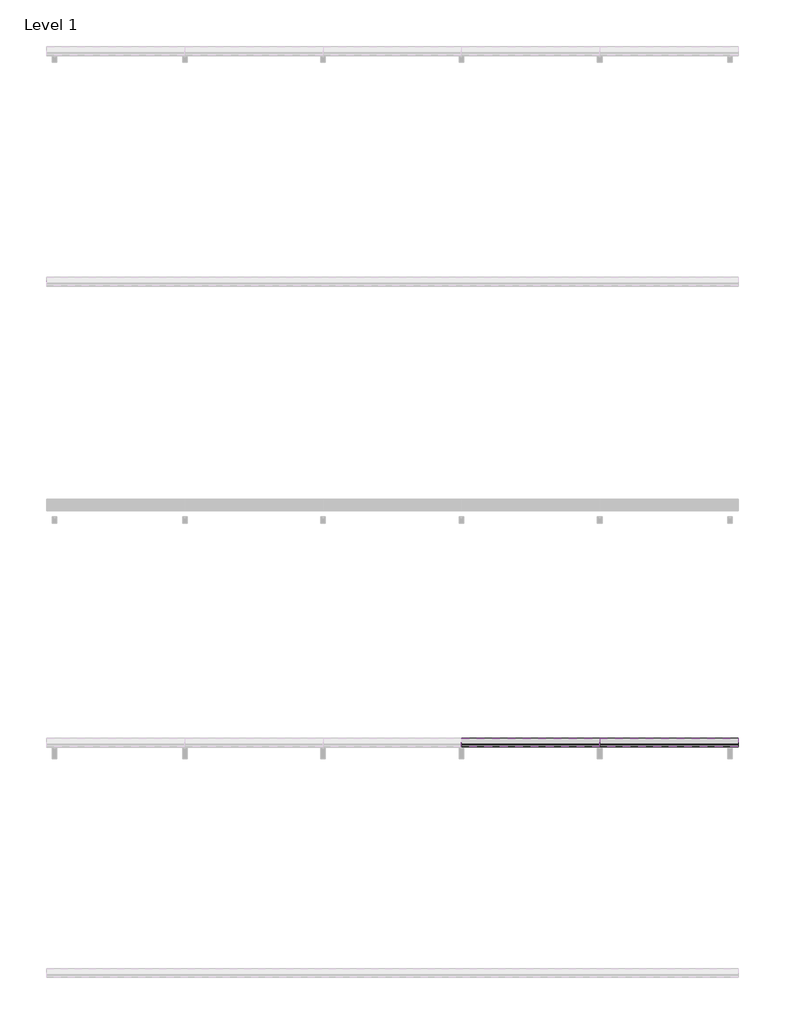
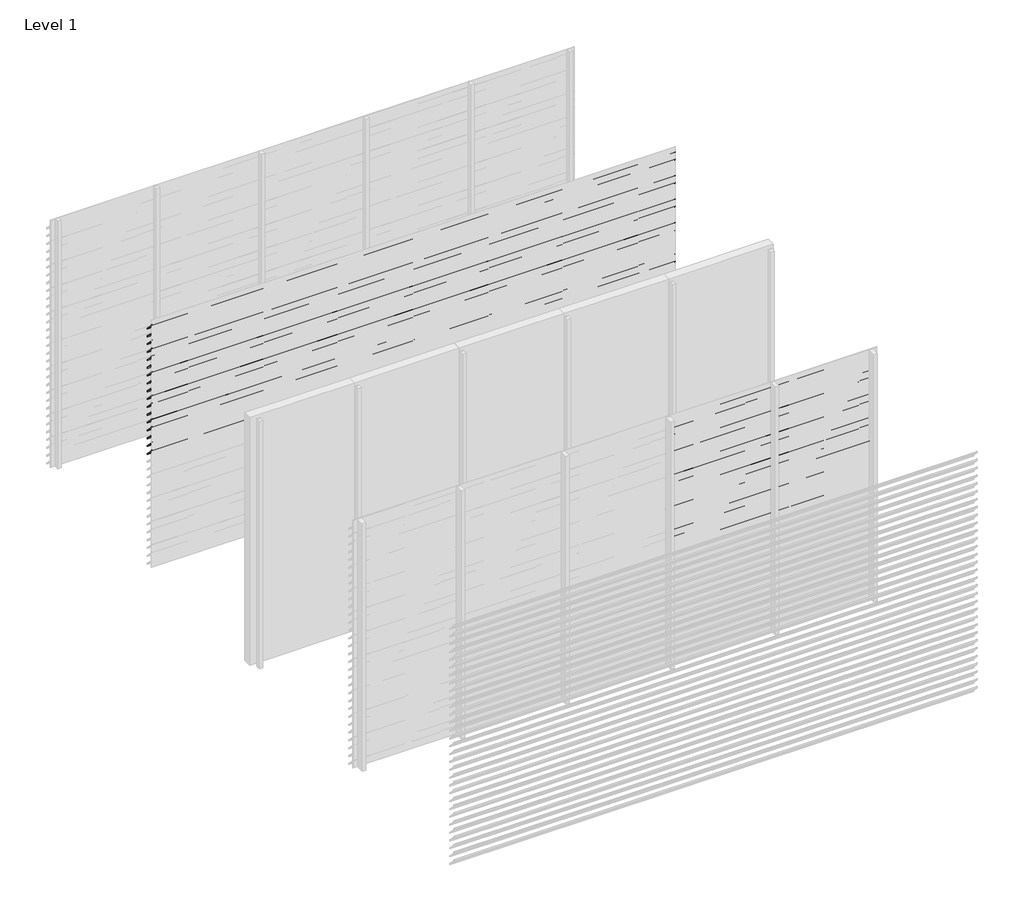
# One storey, part 11 of 24: 89 proxies.
"""IFC4 building model written with IfcOpenShell, lengths in millimetres."""

from ifc_helpers import new_model, si_unit, frame, origin, place, context, project, spatial, polyline, outline, extrude, element, save

model = new_model("IFC4")

# Units and contexts
model_context = context("Model", 3, world=origin())
ifc_project = project(units=[si_unit("LENGTHUNIT", "METRE", prefix="MILLI")], contexts=[model_context])

# Site, building, storey
site = spatial("IfcSite", under=ifc_project)
building = spatial("IfcBuilding", under=site)
storey = spatial("IfcBuildingStorey", under=building, Name="Level 1", Elevation=0.0)

# Proxies
placement = place(None, origin())
element("IfcBuildingElementProxy", 1, Name="Wall Sweeps", at=placement, inside=storey, context=model_context, shape_type="SweptSolid", body=[
    extrude(outline(polyline([(-31920.8, 2842.9), (-31922.3, 2842.9), (-31922.3, 2855.1762333), (-31998.0, 2930.4561238), (-31998.0, 2945.0), (-31996.5, 2945.0), (-31996.5, 2931.0798905), (-31920.8, 2855.8), (-31920.8, 2842.9)])), frame((0.0, 0.0, 0.0), z_axis=(1.0, 0.0, 0.0), x_axis=(0.0, 1.0, 0.0)), (0.0, 0.0, 1.0), 6000.0),
])
element("IfcBuildingElementProxy", 2, Name="Wall Sweeps", at=placement, inside=storey, context=model_context, shape_type="SweptSolid", body=[
    extrude(outline(polyline([(-31920.8, 2747.9), (-31922.3, 2747.9), (-31922.3, 2760.1762333), (-31998.0, 2835.4561238), (-31998.0, 2850.0), (-31996.5, 2850.0), (-31996.5, 2836.0798905), (-31920.8, 2760.8), (-31920.8, 2747.9)])), frame((0.0, 0.0, 0.0), z_axis=(1.0, 0.0, 0.0), x_axis=(0.0, 1.0, 0.0)), (0.0, 0.0, 1.0), 6000.0),
])
element("IfcBuildingElementProxy", 3, Name="Wall Sweeps", at=placement, inside=storey, context=model_context, shape_type="SweptSolid", body=[
    extrude(outline(polyline([(-31920.8, 2652.9), (-31922.3, 2652.9), (-31922.3, 2665.1762333), (-31998.0, 2740.4561238), (-31998.0, 2755.0), (-31996.5, 2755.0), (-31996.5, 2741.0798905), (-31920.8, 2665.8), (-31920.8, 2652.9)])), frame((0.0, 0.0, 0.0), z_axis=(1.0, 0.0, 0.0), x_axis=(0.0, 1.0, 0.0)), (0.0, 0.0, 1.0), 6000.0),
])
element("IfcBuildingElementProxy", 4, Name="Wall Sweeps", at=placement, inside=storey, context=model_context, shape_type="SweptSolid", body=[
    extrude(outline(polyline([(-31920.8, 2557.9), (-31922.3, 2557.9), (-31922.3, 2570.1762333), (-31998.0, 2645.4561238), (-31998.0, 2660.0), (-31996.5, 2660.0), (-31996.5, 2646.0798905), (-31920.8, 2570.8), (-31920.8, 2557.9)])), frame((0.0, 0.0, 0.0), z_axis=(1.0, 0.0, 0.0), x_axis=(0.0, 1.0, 0.0)), (0.0, 0.0, 1.0), 6000.0),
])
element("IfcBuildingElementProxy", 5, Name="Wall Sweeps", at=placement, inside=storey, context=model_context, shape_type="SweptSolid", body=[
    extrude(outline(polyline([(-31920.8, 2462.9), (-31922.3, 2462.9), (-31922.3, 2475.1762333), (-31998.0, 2550.4561238), (-31998.0, 2565.0), (-31996.5, 2565.0), (-31996.5, 2551.0798905), (-31920.8, 2475.8), (-31920.8, 2462.9)])), frame((0.0, 0.0, 0.0), z_axis=(1.0, 0.0, 0.0), x_axis=(0.0, 1.0, 0.0)), (0.0, 0.0, 1.0), 6000.0),
])
element("IfcBuildingElementProxy", 6, Name="Wall Sweeps", at=placement, inside=storey, context=model_context, shape_type="SweptSolid", body=[
    extrude(outline(polyline([(-31920.8, 2367.9), (-31922.3, 2367.9), (-31922.3, 2380.1762333), (-31998.0, 2455.4561238), (-31998.0, 2470.0), (-31996.5, 2470.0), (-31996.5, 2456.0798905), (-31920.8, 2380.8), (-31920.8, 2367.9)])), frame((0.0, 0.0, 0.0), z_axis=(1.0, 0.0, 0.0), x_axis=(0.0, 1.0, 0.0)), (0.0, 0.0, 1.0), 6000.0),
])
element("IfcBuildingElementProxy", 7, Name="Wall Sweeps", at=placement, inside=storey, context=model_context, shape_type="SweptSolid", body=[
    extrude(outline(polyline([(-31920.8, 2272.9), (-31922.3, 2272.9), (-31922.3, 2285.1762333), (-31998.0, 2360.4561238), (-31998.0, 2375.0), (-31996.5, 2375.0), (-31996.5, 2361.0798905), (-31920.8, 2285.8), (-31920.8, 2272.9)])), frame((0.0, 0.0, 0.0), z_axis=(1.0, 0.0, 0.0), x_axis=(0.0, 1.0, 0.0)), (0.0, 0.0, 1.0), 6000.0),
])
element("IfcBuildingElementProxy", 8, Name="Wall Sweeps", at=placement, inside=storey, context=model_context, shape_type="SweptSolid", body=[
    extrude(outline(polyline([(-31920.8, 2177.9), (-31922.3, 2177.9), (-31922.3, 2190.1762333), (-31998.0, 2265.4561238), (-31998.0, 2280.0), (-31996.5, 2280.0), (-31996.5, 2266.0798905), (-31920.8, 2190.8), (-31920.8, 2177.9)])), frame((0.0, 0.0, 0.0), z_axis=(1.0, 0.0, 0.0), x_axis=(0.0, 1.0, 0.0)), (0.0, 0.0, 1.0), 6000.0),
])
element("IfcBuildingElementProxy", 9, Name="Wall Sweeps", at=placement, inside=storey, context=model_context, shape_type="SweptSolid", body=[
    extrude(outline(polyline([(-31920.8, 2082.9), (-31922.3, 2082.9), (-31922.3, 2095.1762333), (-31998.0, 2170.4561238), (-31998.0, 2185.0), (-31996.5, 2185.0), (-31996.5, 2171.0798905), (-31920.8, 2095.8), (-31920.8, 2082.9)])), frame((0.0, 0.0, 0.0), z_axis=(1.0, 0.0, 0.0), x_axis=(0.0, 1.0, 0.0)), (0.0, 0.0, 1.0), 6000.0),
])
element("IfcBuildingElementProxy", 10, Name="Wall Sweeps", at=placement, inside=storey, context=model_context, shape_type="SweptSolid", body=[
    extrude(outline(polyline([(-31920.8, 1987.9), (-31922.3, 1987.9), (-31922.3, 2000.1762333), (-31998.0, 2075.4561238), (-31998.0, 2090.0), (-31996.5, 2090.0), (-31996.5, 2076.0798905), (-31920.8, 2000.8), (-31920.8, 1987.9)])), frame((0.0, 0.0, 0.0), z_axis=(1.0, 0.0, 0.0), x_axis=(0.0, 1.0, 0.0)), (0.0, 0.0, 1.0), 6000.0),
])
element("IfcBuildingElementProxy", 11, Name="Wall Sweeps", at=placement, inside=storey, context=model_context, shape_type="SweptSolid", body=[
    extrude(outline(polyline([(-31920.8, 1892.9), (-31922.3, 1892.9), (-31922.3, 1905.1762333), (-31998.0, 1980.4561238), (-31998.0, 1995.0), (-31996.5, 1995.0), (-31996.5, 1981.0798905), (-31920.8, 1905.8), (-31920.8, 1892.9)])), frame((0.0, 0.0, 0.0), z_axis=(1.0, 0.0, 0.0), x_axis=(0.0, 1.0, 0.0)), (0.0, 0.0, 1.0), 6000.0),
])
element("IfcBuildingElementProxy", 12, Name="Wall Sweeps", at=placement, inside=storey, context=model_context, shape_type="SweptSolid", body=[
    extrude(outline(polyline([(-31920.8, 1797.9), (-31922.3, 1797.9), (-31922.3, 1810.1762333), (-31998.0, 1885.4561238), (-31998.0, 1900.0), (-31996.5, 1900.0), (-31996.5, 1886.0798905), (-31920.8, 1810.8), (-31920.8, 1797.9)])), frame((0.0, 0.0, 0.0), z_axis=(1.0, 0.0, 0.0), x_axis=(0.0, 1.0, 0.0)), (0.0, 0.0, 1.0), 6000.0),
])
element("IfcBuildingElementProxy", 13, Name="Wall Sweeps", at=placement, inside=storey, context=model_context, shape_type="SweptSolid", body=[
    extrude(outline(polyline([(-31920.8, 1702.9), (-31922.3, 1702.9), (-31922.3, 1715.1762333), (-31998.0, 1790.4561238), (-31998.0, 1805.0), (-31996.5, 1805.0), (-31996.5, 1791.0798905), (-31920.8, 1715.8), (-31920.8, 1702.9)])), frame((0.0, 0.0, 0.0), z_axis=(1.0, 0.0, 0.0), x_axis=(0.0, 1.0, 0.0)), (0.0, 0.0, 1.0), 6000.0),
])
element("IfcBuildingElementProxy", 14, Name="Wall Sweeps", at=placement, inside=storey, context=model_context, shape_type="SweptSolid", body=[
    extrude(outline(polyline([(-31920.8, 1607.9), (-31922.3, 1607.9), (-31922.3, 1620.1762333), (-31998.0, 1695.4561238), (-31998.0, 1710.0), (-31996.5, 1710.0), (-31996.5, 1696.0798905), (-31920.8, 1620.8), (-31920.8, 1607.9)])), frame((0.0, 0.0, 0.0), z_axis=(1.0, 0.0, 0.0), x_axis=(0.0, 1.0, 0.0)), (0.0, 0.0, 1.0), 6000.0),
])
element("IfcBuildingElementProxy", 15, Name="Wall Sweeps", at=placement, inside=storey, context=model_context, shape_type="SweptSolid", body=[
    extrude(outline(polyline([(-31920.8, 1512.9), (-31922.3, 1512.9), (-31922.3, 1525.1762333), (-31998.0, 1600.4561238), (-31998.0, 1615.0), (-31996.5, 1615.0), (-31996.5, 1601.0798905), (-31920.8, 1525.8), (-31920.8, 1512.9)])), frame((0.0, 0.0, 0.0), z_axis=(1.0, 0.0, 0.0), x_axis=(0.0, 1.0, 0.0)), (0.0, 0.0, 1.0), 6000.0),
])
element("IfcBuildingElementProxy", 16, Name="Wall Sweeps", at=placement, inside=storey, context=model_context, shape_type="SweptSolid", body=[
    extrude(outline(polyline([(-31920.8, 1417.9), (-31922.3, 1417.9), (-31922.3, 1430.1762333), (-31998.0, 1505.4561238), (-31998.0, 1520.0), (-31996.5, 1520.0), (-31996.5, 1506.0798905), (-31920.8, 1430.8), (-31920.8, 1417.9)])), frame((0.0, 0.0, 0.0), z_axis=(1.0, 0.0, 0.0), x_axis=(0.0, 1.0, 0.0)), (0.0, 0.0, 1.0), 6000.0),
])
element("IfcBuildingElementProxy", 17, Name="Wall Sweeps", at=placement, inside=storey, context=model_context, shape_type="SweptSolid", body=[
    extrude(outline(polyline([(-31920.8, 1322.9), (-31922.3, 1322.9), (-31922.3, 1335.1762333), (-31998.0, 1410.4561238), (-31998.0, 1425.0), (-31996.5, 1425.0), (-31996.5, 1411.0798905), (-31920.8, 1335.8), (-31920.8, 1322.9)])), frame((0.0, 0.0, 0.0), z_axis=(1.0, 0.0, 0.0), x_axis=(0.0, 1.0, 0.0)), (0.0, 0.0, 1.0), 6000.0),
])
element("IfcBuildingElementProxy", 18, Name="Wall Sweeps", at=placement, inside=storey, context=model_context, shape_type="SweptSolid", body=[
    extrude(outline(polyline([(-35920.8, 847.9), (-35922.3, 847.9), (-35922.3, 860.1762333), (-35998.0, 935.4561238), (-35998.0, 950.0), (-35996.5, 950.0), (-35996.5, 936.0798905), (-35920.8, 860.8), (-35920.8, 847.9)])), frame((2400.0, 0.0, 0.0), z_axis=(1.0, 0.0, 0.0), x_axis=(0.0, 1.0, 0.0)), (0.0, 0.0, 1.0), 1200.0),
])
element("IfcBuildingElementProxy", 19, Name="Wall Sweeps", at=placement, inside=storey, context=model_context, shape_type="SweptSolid", body=[
    extrude(outline(polyline([(-35920.8, 752.9), (-35922.3, 752.9), (-35922.3, 765.1762333), (-35998.0, 840.4561238), (-35998.0, 855.0), (-35996.5, 855.0), (-35996.5, 841.0798905), (-35920.8, 765.8), (-35920.8, 752.9)])), frame((2400.0, 0.0, 0.0), z_axis=(1.0, 0.0, 0.0), x_axis=(0.0, 1.0, 0.0)), (0.0, 0.0, 1.0), 1200.0),
])
element("IfcBuildingElementProxy", 20, Name="Wall Sweeps", at=placement, inside=storey, context=model_context, shape_type="SweptSolid", body=[
    extrude(outline(polyline([(-35920.8, 657.9), (-35922.3, 657.9), (-35922.3, 670.1762333), (-35998.0, 745.4561238), (-35998.0, 760.0), (-35996.5, 760.0), (-35996.5, 746.0798905), (-35920.8, 670.8), (-35920.8, 657.9)])), frame((2400.0, 0.0, 0.0), z_axis=(1.0, 0.0, 0.0), x_axis=(0.0, 1.0, 0.0)), (0.0, 0.0, 1.0), 1200.0),
])
element("IfcBuildingElementProxy", 21, Name="Wall Sweeps", at=placement, inside=storey, context=model_context, shape_type="SweptSolid", body=[
    extrude(outline(polyline([(-35920.8, 562.9), (-35922.3, 562.9), (-35922.3, 575.1762333), (-35998.0, 650.4561238), (-35998.0, 665.0), (-35996.5, 665.0), (-35996.5, 651.0798905), (-35920.8, 575.8), (-35920.8, 562.9)])), frame((2400.0, 0.0, 0.0), z_axis=(1.0, 0.0, 0.0), x_axis=(0.0, 1.0, 0.0)), (0.0, 0.0, 1.0), 1200.0),
])
element("IfcBuildingElementProxy", 22, Name="Wall Sweeps", at=placement, inside=storey, context=model_context, shape_type="SweptSolid", body=[
    extrude(outline(polyline([(-35920.8, 467.9), (-35922.3, 467.9), (-35922.3, 480.1762333), (-35998.0, 555.4561238), (-35998.0, 570.0), (-35996.5, 570.0), (-35996.5, 556.0798905), (-35920.8, 480.8), (-35920.8, 467.9)])), frame((2400.0, 0.0, 0.0), z_axis=(1.0, 0.0, 0.0), x_axis=(0.0, 1.0, 0.0)), (0.0, 0.0, 1.0), 1200.0),
])
element("IfcBuildingElementProxy", 23, Name="Wall Sweeps", at=placement, inside=storey, context=model_context, shape_type="SweptSolid", body=[
    extrude(outline(polyline([(-35920.8, 372.9), (-35922.3, 372.9), (-35922.3, 385.1762333), (-35998.0, 460.4561238), (-35998.0, 475.0), (-35996.5, 475.0), (-35996.5, 461.0798905), (-35920.8, 385.8), (-35920.8, 372.9)])), frame((2400.0, 0.0, 0.0), z_axis=(1.0, 0.0, 0.0), x_axis=(0.0, 1.0, 0.0)), (0.0, 0.0, 1.0), 1200.0),
])
element("IfcBuildingElementProxy", 24, Name="Wall Sweeps", at=placement, inside=storey, context=model_context, shape_type="SweptSolid", body=[
    extrude(outline(polyline([(-35920.8, 277.9), (-35922.3, 277.9), (-35922.3, 290.1762333), (-35998.0, 365.4561238), (-35998.0, 380.0), (-35996.5, 380.0), (-35996.5, 366.0798905), (-35920.8, 290.8), (-35920.8, 277.9)])), frame((2400.0, 0.0, 0.0), z_axis=(1.0, 0.0, 0.0), x_axis=(0.0, 1.0, 0.0)), (0.0, 0.0, 1.0), 1200.0),
])
element("IfcBuildingElementProxy", 25, Name="Wall Sweeps", at=placement, inside=storey, context=model_context, shape_type="SweptSolid", body=[
    extrude(outline(polyline([(-35920.8, 182.9), (-35922.3, 182.9), (-35922.3, 195.1762333), (-35998.0, 270.4561238), (-35998.0, 285.0), (-35996.5, 285.0), (-35996.5, 271.0798905), (-35920.8, 195.8), (-35920.8, 182.9)])), frame((2400.0, 0.0, 0.0), z_axis=(1.0, 0.0, 0.0), x_axis=(0.0, 1.0, 0.0)), (0.0, 0.0, 1.0), 1200.0),
])
element("IfcBuildingElementProxy", 26, Name="Wall Sweeps", at=placement, inside=storey, context=model_context, shape_type="SweptSolid", body=[
    extrude(outline(polyline([(-35920.8, 87.9), (-35922.3, 87.9), (-35922.3, 100.1762333), (-35998.0, 175.4561238), (-35998.0, 190.0), (-35996.5, 190.0), (-35996.5, 176.0798905), (-35920.8, 100.8), (-35920.8, 87.9)])), frame((2400.0, 0.0, 0.0), z_axis=(1.0, 0.0, 0.0), x_axis=(0.0, 1.0, 0.0)), (0.0, 0.0, 1.0), 1200.0),
])
element("IfcBuildingElementProxy", 27, Name="Wall Sweeps", at=placement, inside=storey, context=model_context, shape_type="SweptSolid", body=[
    extrude(outline(polyline([(-35920.8, -7.1), (-35922.3, -7.1), (-35922.3, 5.1762333), (-35998.0, 80.4561238), (-35998.0, 95.0), (-35996.5, 95.0), (-35996.5, 81.0798905), (-35920.8, 5.8), (-35920.8, -7.1)])), frame((2400.0, 0.0, 0.0), z_axis=(1.0, 0.0, 0.0), x_axis=(0.0, 1.0, 0.0)), (0.0, 0.0, 1.0), 1200.0),
])
element("IfcBuildingElementProxy", 28, Name="Wall Sweeps", at=placement, inside=storey, context=model_context, shape_type="SweptSolid", body=[
    extrude(outline(polyline([(-35920.8, 2842.9), (-35922.3, 2842.9), (-35922.3, 2855.1762333), (-35998.0, 2930.4561238), (-35998.0, 2945.0), (-35996.5, 2945.0), (-35996.5, 2931.0798905), (-35920.8, 2855.8), (-35920.8, 2842.9)])), frame((3600.0, 0.0, 0.0), z_axis=(1.0, 0.0, 0.0), x_axis=(0.0, 1.0, 0.0)), (0.0, 0.0, 1.0), 1200.0),
])
element("IfcBuildingElementProxy", 29, Name="Wall Sweeps", at=placement, inside=storey, context=model_context, shape_type="SweptSolid", body=[
    extrude(outline(polyline([(-35920.8, 2747.9), (-35922.3, 2747.9), (-35922.3, 2760.1762333), (-35998.0, 2835.4561238), (-35998.0, 2850.0), (-35996.5, 2850.0), (-35996.5, 2836.0798905), (-35920.8, 2760.8), (-35920.8, 2747.9)])), frame((3600.0, 0.0, 0.0), z_axis=(1.0, 0.0, 0.0), x_axis=(0.0, 1.0, 0.0)), (0.0, 0.0, 1.0), 1200.0),
])
element("IfcBuildingElementProxy", 30, Name="Wall Sweeps", at=placement, inside=storey, context=model_context, shape_type="SweptSolid", body=[
    extrude(outline(polyline([(-35920.8, 2652.9), (-35922.3, 2652.9), (-35922.3, 2665.1762333), (-35998.0, 2740.4561238), (-35998.0, 2755.0), (-35996.5, 2755.0), (-35996.5, 2741.0798905), (-35920.8, 2665.8), (-35920.8, 2652.9)])), frame((3600.0, 0.0, 0.0), z_axis=(1.0, 0.0, 0.0), x_axis=(0.0, 1.0, 0.0)), (0.0, 0.0, 1.0), 1200.0),
])
element("IfcBuildingElementProxy", 31, Name="Wall Sweeps", at=placement, inside=storey, context=model_context, shape_type="SweptSolid", body=[
    extrude(outline(polyline([(-35920.8, 2557.9), (-35922.3, 2557.9), (-35922.3, 2570.1762333), (-35998.0, 2645.4561238), (-35998.0, 2660.0), (-35996.5, 2660.0), (-35996.5, 2646.0798905), (-35920.8, 2570.8), (-35920.8, 2557.9)])), frame((3600.0, 0.0, 0.0), z_axis=(1.0, 0.0, 0.0), x_axis=(0.0, 1.0, 0.0)), (0.0, 0.0, 1.0), 1200.0),
])
element("IfcBuildingElementProxy", 32, Name="Wall Sweeps", at=placement, inside=storey, context=model_context, shape_type="SweptSolid", body=[
    extrude(outline(polyline([(-35920.8, 2462.9), (-35922.3, 2462.9), (-35922.3, 2475.1762333), (-35998.0, 2550.4561238), (-35998.0, 2565.0), (-35996.5, 2565.0), (-35996.5, 2551.0798905), (-35920.8, 2475.8), (-35920.8, 2462.9)])), frame((3600.0, 0.0, 0.0), z_axis=(1.0, 0.0, 0.0), x_axis=(0.0, 1.0, 0.0)), (0.0, 0.0, 1.0), 1200.0),
])
element("IfcBuildingElementProxy", 33, Name="Wall Sweeps", at=placement, inside=storey, context=model_context, shape_type="SweptSolid", body=[
    extrude(outline(polyline([(-35920.8, 2367.9), (-35922.3, 2367.9), (-35922.3, 2380.1762333), (-35998.0, 2455.4561238), (-35998.0, 2470.0), (-35996.5, 2470.0), (-35996.5, 2456.0798905), (-35920.8, 2380.8), (-35920.8, 2367.9)])), frame((3600.0, 0.0, 0.0), z_axis=(1.0, 0.0, 0.0), x_axis=(0.0, 1.0, 0.0)), (0.0, 0.0, 1.0), 1200.0),
])
element("IfcBuildingElementProxy", 34, Name="Wall Sweeps", at=placement, inside=storey, context=model_context, shape_type="SweptSolid", body=[
    extrude(outline(polyline([(-35920.8, 2272.9), (-35922.3, 2272.9), (-35922.3, 2285.1762333), (-35998.0, 2360.4561238), (-35998.0, 2375.0), (-35996.5, 2375.0), (-35996.5, 2361.0798905), (-35920.8, 2285.8), (-35920.8, 2272.9)])), frame((3600.0, 0.0, 0.0), z_axis=(1.0, 0.0, 0.0), x_axis=(0.0, 1.0, 0.0)), (0.0, 0.0, 1.0), 1200.0),
])
element("IfcBuildingElementProxy", 35, Name="Wall Sweeps", at=placement, inside=storey, context=model_context, shape_type="SweptSolid", body=[
    extrude(outline(polyline([(-35920.8, 2177.9), (-35922.3, 2177.9), (-35922.3, 2190.1762333), (-35998.0, 2265.4561238), (-35998.0, 2280.0), (-35996.5, 2280.0), (-35996.5, 2266.0798905), (-35920.8, 2190.8), (-35920.8, 2177.9)])), frame((3600.0, 0.0, 0.0), z_axis=(1.0, 0.0, 0.0), x_axis=(0.0, 1.0, 0.0)), (0.0, 0.0, 1.0), 1200.0),
])
element("IfcBuildingElementProxy", 36, Name="Wall Sweeps", at=placement, inside=storey, context=model_context, shape_type="SweptSolid", body=[
    extrude(outline(polyline([(-35920.8, 2082.9), (-35922.3, 2082.9), (-35922.3, 2095.1762333), (-35998.0, 2170.4561238), (-35998.0, 2185.0), (-35996.5, 2185.0), (-35996.5, 2171.0798905), (-35920.8, 2095.8), (-35920.8, 2082.9)])), frame((3600.0, 0.0, 0.0), z_axis=(1.0, 0.0, 0.0), x_axis=(0.0, 1.0, 0.0)), (0.0, 0.0, 1.0), 1200.0),
])
element("IfcBuildingElementProxy", 37, Name="Wall Sweeps", at=placement, inside=storey, context=model_context, shape_type="SweptSolid", body=[
    extrude(outline(polyline([(-35920.8, 1987.9), (-35922.3, 1987.9), (-35922.3, 2000.1762333), (-35998.0, 2075.4561238), (-35998.0, 2090.0), (-35996.5, 2090.0), (-35996.5, 2076.0798905), (-35920.8, 2000.8), (-35920.8, 1987.9)])), frame((3600.0, 0.0, 0.0), z_axis=(1.0, 0.0, 0.0), x_axis=(0.0, 1.0, 0.0)), (0.0, 0.0, 1.0), 1200.0),
])
element("IfcBuildingElementProxy", 38, Name="Wall Sweeps", at=placement, inside=storey, context=model_context, shape_type="SweptSolid", body=[
    extrude(outline(polyline([(-35920.8, 1892.9), (-35922.3, 1892.9), (-35922.3, 1905.1762333), (-35998.0, 1980.4561238), (-35998.0, 1995.0), (-35996.5, 1995.0), (-35996.5, 1981.0798905), (-35920.8, 1905.8), (-35920.8, 1892.9)])), frame((3600.0, 0.0, 0.0), z_axis=(1.0, 0.0, 0.0), x_axis=(0.0, 1.0, 0.0)), (0.0, 0.0, 1.0), 1200.0),
])
element("IfcBuildingElementProxy", 39, Name="Wall Sweeps", at=placement, inside=storey, context=model_context, shape_type="SweptSolid", body=[
    extrude(outline(polyline([(-35920.8, 1797.9), (-35922.3, 1797.9), (-35922.3, 1810.1762333), (-35998.0, 1885.4561238), (-35998.0, 1900.0), (-35996.5, 1900.0), (-35996.5, 1886.0798905), (-35920.8, 1810.8), (-35920.8, 1797.9)])), frame((3600.0, 0.0, 0.0), z_axis=(1.0, 0.0, 0.0), x_axis=(0.0, 1.0, 0.0)), (0.0, 0.0, 1.0), 1200.0),
])
element("IfcBuildingElementProxy", 40, Name="Wall Sweeps", at=placement, inside=storey, context=model_context, shape_type="SweptSolid", body=[
    extrude(outline(polyline([(-35920.8, 1702.9), (-35922.3, 1702.9), (-35922.3, 1715.1762333), (-35998.0, 1790.4561238), (-35998.0, 1805.0), (-35996.5, 1805.0), (-35996.5, 1791.0798905), (-35920.8, 1715.8), (-35920.8, 1702.9)])), frame((3600.0, 0.0, 0.0), z_axis=(1.0, 0.0, 0.0), x_axis=(0.0, 1.0, 0.0)), (0.0, 0.0, 1.0), 1200.0),
])
element("IfcBuildingElementProxy", 41, Name="Wall Sweeps", at=placement, inside=storey, context=model_context, shape_type="SweptSolid", body=[
    extrude(outline(polyline([(-35920.8, 1607.9), (-35922.3, 1607.9), (-35922.3, 1620.1762333), (-35998.0, 1695.4561238), (-35998.0, 1710.0), (-35996.5, 1710.0), (-35996.5, 1696.0798905), (-35920.8, 1620.8), (-35920.8, 1607.9)])), frame((3600.0, 0.0, 0.0), z_axis=(1.0, 0.0, 0.0), x_axis=(0.0, 1.0, 0.0)), (0.0, 0.0, 1.0), 1200.0),
])
element("IfcBuildingElementProxy", 42, Name="Wall Sweeps", at=placement, inside=storey, context=model_context, shape_type="SweptSolid", body=[
    extrude(outline(polyline([(-35920.8, 1512.9), (-35922.3, 1512.9), (-35922.3, 1525.1762333), (-35998.0, 1600.4561238), (-35998.0, 1615.0), (-35996.5, 1615.0), (-35996.5, 1601.0798905), (-35920.8, 1525.8), (-35920.8, 1512.9)])), frame((3600.0, 0.0, 0.0), z_axis=(1.0, 0.0, 0.0), x_axis=(0.0, 1.0, 0.0)), (0.0, 0.0, 1.0), 1200.0),
])
element("IfcBuildingElementProxy", 43, Name="Wall Sweeps", at=placement, inside=storey, context=model_context, shape_type="SweptSolid", body=[
    extrude(outline(polyline([(-35920.8, 1417.9), (-35922.3, 1417.9), (-35922.3, 1430.1762333), (-35998.0, 1505.4561238), (-35998.0, 1520.0), (-35996.5, 1520.0), (-35996.5, 1506.0798905), (-35920.8, 1430.8), (-35920.8, 1417.9)])), frame((3600.0, 0.0, 0.0), z_axis=(1.0, 0.0, 0.0), x_axis=(0.0, 1.0, 0.0)), (0.0, 0.0, 1.0), 1200.0),
])
element("IfcBuildingElementProxy", 44, Name="Wall Sweeps", at=placement, inside=storey, context=model_context, shape_type="SweptSolid", body=[
    extrude(outline(polyline([(-35920.8, 1322.9), (-35922.3, 1322.9), (-35922.3, 1335.1762333), (-35998.0, 1410.4561238), (-35998.0, 1425.0), (-35996.5, 1425.0), (-35996.5, 1411.0798905), (-35920.8, 1335.8), (-35920.8, 1322.9)])), frame((3600.0, 0.0, 0.0), z_axis=(1.0, 0.0, 0.0), x_axis=(0.0, 1.0, 0.0)), (0.0, 0.0, 1.0), 1200.0),
])
element("IfcBuildingElementProxy", 45, Name="Wall Sweeps", at=placement, inside=storey, context=model_context, shape_type="SweptSolid", body=[
    extrude(outline(polyline([(-35920.8, 1227.9), (-35922.3, 1227.9), (-35922.3, 1240.1762333), (-35998.0, 1315.4561238), (-35998.0, 1330.0), (-35996.5, 1330.0), (-35996.5, 1316.0798905), (-35920.8, 1240.8), (-35920.8, 1227.9)])), frame((3600.0, 0.0, 0.0), z_axis=(1.0, 0.0, 0.0), x_axis=(0.0, 1.0, 0.0)), (0.0, 0.0, 1.0), 1200.0),
])
element("IfcBuildingElementProxy", 46, Name="Wall Sweeps", at=placement, inside=storey, context=model_context, shape_type="SweptSolid", body=[
    extrude(outline(polyline([(-35920.8, 1132.9), (-35922.3, 1132.9), (-35922.3, 1145.1762333), (-35998.0, 1220.4561238), (-35998.0, 1235.0), (-35996.5, 1235.0), (-35996.5, 1221.0798905), (-35920.8, 1145.8), (-35920.8, 1132.9)])), frame((3600.0, 0.0, 0.0), z_axis=(1.0, 0.0, 0.0), x_axis=(0.0, 1.0, 0.0)), (0.0, 0.0, 1.0), 1200.0),
])
element("IfcBuildingElementProxy", 47, Name="Wall Sweeps", at=placement, inside=storey, context=model_context, shape_type="SweptSolid", body=[
    extrude(outline(polyline([(-35920.8, 1037.9), (-35922.3, 1037.9), (-35922.3, 1050.1762333), (-35998.0, 1125.4561238), (-35998.0, 1140.0), (-35996.5, 1140.0), (-35996.5, 1126.0798905), (-35920.8, 1050.8), (-35920.8, 1037.9)])), frame((3600.0, 0.0, 0.0), z_axis=(1.0, 0.0, 0.0), x_axis=(0.0, 1.0, 0.0)), (0.0, 0.0, 1.0), 1200.0),
])
element("IfcBuildingElementProxy", 48, Name="Wall Sweeps", at=placement, inside=storey, context=model_context, shape_type="SweptSolid", body=[
    extrude(outline(polyline([(-35920.8, 942.9), (-35922.3, 942.9), (-35922.3, 955.1762333), (-35998.0, 1030.4561238), (-35998.0, 1045.0), (-35996.5, 1045.0), (-35996.5, 1031.0798905), (-35920.8, 955.8), (-35920.8, 942.9)])), frame((3600.0, 0.0, 0.0), z_axis=(1.0, 0.0, 0.0), x_axis=(0.0, 1.0, 0.0)), (0.0, 0.0, 1.0), 1200.0),
])
element("IfcBuildingElementProxy", 49, Name="Wall Sweeps", at=placement, inside=storey, context=model_context, shape_type="SweptSolid", body=[
    extrude(outline(polyline([(-35920.8, 847.9), (-35922.3, 847.9), (-35922.3, 860.1762333), (-35998.0, 935.4561238), (-35998.0, 950.0), (-35996.5, 950.0), (-35996.5, 936.0798905), (-35920.8, 860.8), (-35920.8, 847.9)])), frame((3600.0, 0.0, 0.0), z_axis=(1.0, 0.0, 0.0), x_axis=(0.0, 1.0, 0.0)), (0.0, 0.0, 1.0), 1200.0),
])
element("IfcBuildingElementProxy", 50, Name="Wall Sweeps", at=placement, inside=storey, context=model_context, shape_type="SweptSolid", body=[
    extrude(outline(polyline([(-35920.8, 752.9), (-35922.3, 752.9), (-35922.3, 765.1762333), (-35998.0, 840.4561238), (-35998.0, 855.0), (-35996.5, 855.0), (-35996.5, 841.0798905), (-35920.8, 765.8), (-35920.8, 752.9)])), frame((3600.0, 0.0, 0.0), z_axis=(1.0, 0.0, 0.0), x_axis=(0.0, 1.0, 0.0)), (0.0, 0.0, 1.0), 1200.0),
])
element("IfcBuildingElementProxy", 51, Name="Wall Sweeps", at=placement, inside=storey, context=model_context, shape_type="SweptSolid", body=[
    extrude(outline(polyline([(-35920.8, 657.9), (-35922.3, 657.9), (-35922.3, 670.1762333), (-35998.0, 745.4561238), (-35998.0, 760.0), (-35996.5, 760.0), (-35996.5, 746.0798905), (-35920.8, 670.8), (-35920.8, 657.9)])), frame((3600.0, 0.0, 0.0), z_axis=(1.0, 0.0, 0.0), x_axis=(0.0, 1.0, 0.0)), (0.0, 0.0, 1.0), 1200.0),
])
element("IfcBuildingElementProxy", 52, Name="Wall Sweeps", at=placement, inside=storey, context=model_context, shape_type="SweptSolid", body=[
    extrude(outline(polyline([(-35920.8, 562.9), (-35922.3, 562.9), (-35922.3, 575.1762333), (-35998.0, 650.4561238), (-35998.0, 665.0), (-35996.5, 665.0), (-35996.5, 651.0798905), (-35920.8, 575.8), (-35920.8, 562.9)])), frame((3600.0, 0.0, 0.0), z_axis=(1.0, 0.0, 0.0), x_axis=(0.0, 1.0, 0.0)), (0.0, 0.0, 1.0), 1200.0),
])
element("IfcBuildingElementProxy", 53, Name="Wall Sweeps", at=placement, inside=storey, context=model_context, shape_type="SweptSolid", body=[
    extrude(outline(polyline([(-35920.8, 467.9), (-35922.3, 467.9), (-35922.3, 480.1762333), (-35998.0, 555.4561238), (-35998.0, 570.0), (-35996.5, 570.0), (-35996.5, 556.0798905), (-35920.8, 480.8), (-35920.8, 467.9)])), frame((3600.0, 0.0, 0.0), z_axis=(1.0, 0.0, 0.0), x_axis=(0.0, 1.0, 0.0)), (0.0, 0.0, 1.0), 1200.0),
])
element("IfcBuildingElementProxy", 54, Name="Wall Sweeps", at=placement, inside=storey, context=model_context, shape_type="SweptSolid", body=[
    extrude(outline(polyline([(-35920.8, 372.9), (-35922.3, 372.9), (-35922.3, 385.1762333), (-35998.0, 460.4561238), (-35998.0, 475.0), (-35996.5, 475.0), (-35996.5, 461.0798905), (-35920.8, 385.8), (-35920.8, 372.9)])), frame((3600.0, 0.0, 0.0), z_axis=(1.0, 0.0, 0.0), x_axis=(0.0, 1.0, 0.0)), (0.0, 0.0, 1.0), 1200.0),
])
element("IfcBuildingElementProxy", 55, Name="Wall Sweeps", at=placement, inside=storey, context=model_context, shape_type="SweptSolid", body=[
    extrude(outline(polyline([(-35920.8, 277.9), (-35922.3, 277.9), (-35922.3, 290.1762333), (-35998.0, 365.4561238), (-35998.0, 380.0), (-35996.5, 380.0), (-35996.5, 366.0798905), (-35920.8, 290.8), (-35920.8, 277.9)])), frame((3600.0, 0.0, 0.0), z_axis=(1.0, 0.0, 0.0), x_axis=(0.0, 1.0, 0.0)), (0.0, 0.0, 1.0), 1200.0),
])
element("IfcBuildingElementProxy", 56, Name="Wall Sweeps", at=placement, inside=storey, context=model_context, shape_type="SweptSolid", body=[
    extrude(outline(polyline([(-35920.8, 182.9), (-35922.3, 182.9), (-35922.3, 195.1762333), (-35998.0, 270.4561238), (-35998.0, 285.0), (-35996.5, 285.0), (-35996.5, 271.0798905), (-35920.8, 195.8), (-35920.8, 182.9)])), frame((3600.0, 0.0, 0.0), z_axis=(1.0, 0.0, 0.0), x_axis=(0.0, 1.0, 0.0)), (0.0, 0.0, 1.0), 1200.0),
])
element("IfcBuildingElementProxy", 57, Name="Wall Sweeps", at=placement, inside=storey, context=model_context, shape_type="SweptSolid", body=[
    extrude(outline(polyline([(-35920.8, 87.9), (-35922.3, 87.9), (-35922.3, 100.1762333), (-35998.0, 175.4561238), (-35998.0, 190.0), (-35996.5, 190.0), (-35996.5, 176.0798905), (-35920.8, 100.8), (-35920.8, 87.9)])), frame((3600.0, 0.0, 0.0), z_axis=(1.0, 0.0, 0.0), x_axis=(0.0, 1.0, 0.0)), (0.0, 0.0, 1.0), 1200.0),
])
element("IfcBuildingElementProxy", 58, Name="Wall Sweeps", at=placement, inside=storey, context=model_context, shape_type="SweptSolid", body=[
    extrude(outline(polyline([(-35920.8, -7.1), (-35922.3, -7.1), (-35922.3, 5.1762333), (-35998.0, 80.4561238), (-35998.0, 95.0), (-35996.5, 95.0), (-35996.5, 81.0798905), (-35920.8, 5.8), (-35920.8, -7.1)])), frame((3600.0, 0.0, 0.0), z_axis=(1.0, 0.0, 0.0), x_axis=(0.0, 1.0, 0.0)), (0.0, 0.0, 1.0), 1200.0),
])
element("IfcBuildingElementProxy", 59, Name="Wall Sweeps", at=placement, inside=storey, context=model_context, shape_type="SweptSolid", body=[
    extrude(outline(polyline([(-35920.8, 2842.9), (-35922.3, 2842.9), (-35922.3, 2855.1762333), (-35998.0, 2930.4561238), (-35998.0, 2945.0), (-35996.5, 2945.0), (-35996.5, 2931.0798905), (-35920.8, 2855.8), (-35920.8, 2842.9)])), frame((4800.0, 0.0, 0.0), z_axis=(1.0, 0.0, 0.0), x_axis=(0.0, 1.0, 0.0)), (0.0, 0.0, 1.0), 1200.0),
])
element("IfcBuildingElementProxy", 60, Name="Wall Sweeps", at=placement, inside=storey, context=model_context, shape_type="SweptSolid", body=[
    extrude(outline(polyline([(-35920.8, 2747.9), (-35922.3, 2747.9), (-35922.3, 2760.1762333), (-35998.0, 2835.4561238), (-35998.0, 2850.0), (-35996.5, 2850.0), (-35996.5, 2836.0798905), (-35920.8, 2760.8), (-35920.8, 2747.9)])), frame((4800.0, 0.0, 0.0), z_axis=(1.0, 0.0, 0.0), x_axis=(0.0, 1.0, 0.0)), (0.0, 0.0, 1.0), 1200.0),
])
element("IfcBuildingElementProxy", 61, Name="Wall Sweeps", at=placement, inside=storey, context=model_context, shape_type="SweptSolid", body=[
    extrude(outline(polyline([(-35920.8, 2652.9), (-35922.3, 2652.9), (-35922.3, 2665.1762333), (-35998.0, 2740.4561238), (-35998.0, 2755.0), (-35996.5, 2755.0), (-35996.5, 2741.0798905), (-35920.8, 2665.8), (-35920.8, 2652.9)])), frame((4800.0, 0.0, 0.0), z_axis=(1.0, 0.0, 0.0), x_axis=(0.0, 1.0, 0.0)), (0.0, 0.0, 1.0), 1200.0),
])
element("IfcBuildingElementProxy", 62, Name="Wall Sweeps", at=placement, inside=storey, context=model_context, shape_type="SweptSolid", body=[
    extrude(outline(polyline([(-35920.8, 2557.9), (-35922.3, 2557.9), (-35922.3, 2570.1762333), (-35998.0, 2645.4561238), (-35998.0, 2660.0), (-35996.5, 2660.0), (-35996.5, 2646.0798905), (-35920.8, 2570.8), (-35920.8, 2557.9)])), frame((4800.0, 0.0, 0.0), z_axis=(1.0, 0.0, 0.0), x_axis=(0.0, 1.0, 0.0)), (0.0, 0.0, 1.0), 1200.0),
])
element("IfcBuildingElementProxy", 63, Name="Wall Sweeps", at=placement, inside=storey, context=model_context, shape_type="SweptSolid", body=[
    extrude(outline(polyline([(-35920.8, 2462.9), (-35922.3, 2462.9), (-35922.3, 2475.1762333), (-35998.0, 2550.4561238), (-35998.0, 2565.0), (-35996.5, 2565.0), (-35996.5, 2551.0798905), (-35920.8, 2475.8), (-35920.8, 2462.9)])), frame((4800.0, 0.0, 0.0), z_axis=(1.0, 0.0, 0.0), x_axis=(0.0, 1.0, 0.0)), (0.0, 0.0, 1.0), 1200.0),
])
element("IfcBuildingElementProxy", 64, Name="Wall Sweeps", at=placement, inside=storey, context=model_context, shape_type="SweptSolid", body=[
    extrude(outline(polyline([(-35920.8, 2367.9), (-35922.3, 2367.9), (-35922.3, 2380.1762333), (-35998.0, 2455.4561238), (-35998.0, 2470.0), (-35996.5, 2470.0), (-35996.5, 2456.0798905), (-35920.8, 2380.8), (-35920.8, 2367.9)])), frame((4800.0, 0.0, 0.0), z_axis=(1.0, 0.0, 0.0), x_axis=(0.0, 1.0, 0.0)), (0.0, 0.0, 1.0), 1200.0),
])
element("IfcBuildingElementProxy", 65, Name="Wall Sweeps", at=placement, inside=storey, context=model_context, shape_type="SweptSolid", body=[
    extrude(outline(polyline([(-35920.8, 2272.9), (-35922.3, 2272.9), (-35922.3, 2285.1762333), (-35998.0, 2360.4561238), (-35998.0, 2375.0), (-35996.5, 2375.0), (-35996.5, 2361.0798905), (-35920.8, 2285.8), (-35920.8, 2272.9)])), frame((4800.0, 0.0, 0.0), z_axis=(1.0, 0.0, 0.0), x_axis=(0.0, 1.0, 0.0)), (0.0, 0.0, 1.0), 1200.0),
])
element("IfcBuildingElementProxy", 66, Name="Wall Sweeps", at=placement, inside=storey, context=model_context, shape_type="SweptSolid", body=[
    extrude(outline(polyline([(-35920.8, 2177.9), (-35922.3, 2177.9), (-35922.3, 2190.1762333), (-35998.0, 2265.4561238), (-35998.0, 2280.0), (-35996.5, 2280.0), (-35996.5, 2266.0798905), (-35920.8, 2190.8), (-35920.8, 2177.9)])), frame((4800.0, 0.0, 0.0), z_axis=(1.0, 0.0, 0.0), x_axis=(0.0, 1.0, 0.0)), (0.0, 0.0, 1.0), 1200.0),
])
element("IfcBuildingElementProxy", 67, Name="Wall Sweeps", at=placement, inside=storey, context=model_context, shape_type="SweptSolid", body=[
    extrude(outline(polyline([(-35920.8, 2082.9), (-35922.3, 2082.9), (-35922.3, 2095.1762333), (-35998.0, 2170.4561238), (-35998.0, 2185.0), (-35996.5, 2185.0), (-35996.5, 2171.0798905), (-35920.8, 2095.8), (-35920.8, 2082.9)])), frame((4800.0, 0.0, 0.0), z_axis=(1.0, 0.0, 0.0), x_axis=(0.0, 1.0, 0.0)), (0.0, 0.0, 1.0), 1200.0),
])
element("IfcBuildingElementProxy", 68, Name="Wall Sweeps", at=placement, inside=storey, context=model_context, shape_type="SweptSolid", body=[
    extrude(outline(polyline([(-35920.8, 1987.9), (-35922.3, 1987.9), (-35922.3, 2000.1762333), (-35998.0, 2075.4561238), (-35998.0, 2090.0), (-35996.5, 2090.0), (-35996.5, 2076.0798905), (-35920.8, 2000.8), (-35920.8, 1987.9)])), frame((4800.0, 0.0, 0.0), z_axis=(1.0, 0.0, 0.0), x_axis=(0.0, 1.0, 0.0)), (0.0, 0.0, 1.0), 1200.0),
])
element("IfcBuildingElementProxy", 69, Name="Wall Sweeps", at=placement, inside=storey, context=model_context, shape_type="SweptSolid", body=[
    extrude(outline(polyline([(-35920.8, 1892.9), (-35922.3, 1892.9), (-35922.3, 1905.1762333), (-35998.0, 1980.4561238), (-35998.0, 1995.0), (-35996.5, 1995.0), (-35996.5, 1981.0798905), (-35920.8, 1905.8), (-35920.8, 1892.9)])), frame((4800.0, 0.0, 0.0), z_axis=(1.0, 0.0, 0.0), x_axis=(0.0, 1.0, 0.0)), (0.0, 0.0, 1.0), 1200.0),
])
element("IfcBuildingElementProxy", 70, Name="Wall Sweeps", at=placement, inside=storey, context=model_context, shape_type="SweptSolid", body=[
    extrude(outline(polyline([(-35920.8, 1797.9), (-35922.3, 1797.9), (-35922.3, 1810.1762333), (-35998.0, 1885.4561238), (-35998.0, 1900.0), (-35996.5, 1900.0), (-35996.5, 1886.0798905), (-35920.8, 1810.8), (-35920.8, 1797.9)])), frame((4800.0, 0.0, 0.0), z_axis=(1.0, 0.0, 0.0), x_axis=(0.0, 1.0, 0.0)), (0.0, 0.0, 1.0), 1200.0),
])
element("IfcBuildingElementProxy", 71, Name="Wall Sweeps", at=placement, inside=storey, context=model_context, shape_type="SweptSolid", body=[
    extrude(outline(polyline([(-35920.8, 1702.9), (-35922.3, 1702.9), (-35922.3, 1715.1762333), (-35998.0, 1790.4561238), (-35998.0, 1805.0), (-35996.5, 1805.0), (-35996.5, 1791.0798905), (-35920.8, 1715.8), (-35920.8, 1702.9)])), frame((4800.0, 0.0, 0.0), z_axis=(1.0, 0.0, 0.0), x_axis=(0.0, 1.0, 0.0)), (0.0, 0.0, 1.0), 1200.0),
])
element("IfcBuildingElementProxy", 72, Name="Wall Sweeps", at=placement, inside=storey, context=model_context, shape_type="SweptSolid", body=[
    extrude(outline(polyline([(-35920.8, 1607.9), (-35922.3, 1607.9), (-35922.3, 1620.1762333), (-35998.0, 1695.4561238), (-35998.0, 1710.0), (-35996.5, 1710.0), (-35996.5, 1696.0798905), (-35920.8, 1620.8), (-35920.8, 1607.9)])), frame((4800.0, 0.0, 0.0), z_axis=(1.0, 0.0, 0.0), x_axis=(0.0, 1.0, 0.0)), (0.0, 0.0, 1.0), 1200.0),
])
element("IfcBuildingElementProxy", 73, Name="Wall Sweeps", at=placement, inside=storey, context=model_context, shape_type="SweptSolid", body=[
    extrude(outline(polyline([(-35920.8, 1512.9), (-35922.3, 1512.9), (-35922.3, 1525.1762333), (-35998.0, 1600.4561238), (-35998.0, 1615.0), (-35996.5, 1615.0), (-35996.5, 1601.0798905), (-35920.8, 1525.8), (-35920.8, 1512.9)])), frame((4800.0, 0.0, 0.0), z_axis=(1.0, 0.0, 0.0), x_axis=(0.0, 1.0, 0.0)), (0.0, 0.0, 1.0), 1200.0),
])
element("IfcBuildingElementProxy", 74, Name="Wall Sweeps", at=placement, inside=storey, context=model_context, shape_type="SweptSolid", body=[
    extrude(outline(polyline([(-35920.8, 1417.9), (-35922.3, 1417.9), (-35922.3, 1430.1762333), (-35998.0, 1505.4561238), (-35998.0, 1520.0), (-35996.5, 1520.0), (-35996.5, 1506.0798905), (-35920.8, 1430.8), (-35920.8, 1417.9)])), frame((4800.0, 0.0, 0.0), z_axis=(1.0, 0.0, 0.0), x_axis=(0.0, 1.0, 0.0)), (0.0, 0.0, 1.0), 1200.0),
])
element("IfcBuildingElementProxy", 75, Name="Wall Sweeps", at=placement, inside=storey, context=model_context, shape_type="SweptSolid", body=[
    extrude(outline(polyline([(-35920.8, 1322.9), (-35922.3, 1322.9), (-35922.3, 1335.1762333), (-35998.0, 1410.4561238), (-35998.0, 1425.0), (-35996.5, 1425.0), (-35996.5, 1411.0798905), (-35920.8, 1335.8), (-35920.8, 1322.9)])), frame((4800.0, 0.0, 0.0), z_axis=(1.0, 0.0, 0.0), x_axis=(0.0, 1.0, 0.0)), (0.0, 0.0, 1.0), 1200.0),
])
element("IfcBuildingElementProxy", 76, Name="Wall Sweeps", at=placement, inside=storey, context=model_context, shape_type="SweptSolid", body=[
    extrude(outline(polyline([(-35920.8, 1227.9), (-35922.3, 1227.9), (-35922.3, 1240.1762333), (-35998.0, 1315.4561238), (-35998.0, 1330.0), (-35996.5, 1330.0), (-35996.5, 1316.0798905), (-35920.8, 1240.8), (-35920.8, 1227.9)])), frame((4800.0, 0.0, 0.0), z_axis=(1.0, 0.0, 0.0), x_axis=(0.0, 1.0, 0.0)), (0.0, 0.0, 1.0), 1200.0),
])
element("IfcBuildingElementProxy", 77, Name="Wall Sweeps", at=placement, inside=storey, context=model_context, shape_type="SweptSolid", body=[
    extrude(outline(polyline([(-35920.8, 1132.9), (-35922.3, 1132.9), (-35922.3, 1145.1762333), (-35998.0, 1220.4561238), (-35998.0, 1235.0), (-35996.5, 1235.0), (-35996.5, 1221.0798905), (-35920.8, 1145.8), (-35920.8, 1132.9)])), frame((4800.0, 0.0, 0.0), z_axis=(1.0, 0.0, 0.0), x_axis=(0.0, 1.0, 0.0)), (0.0, 0.0, 1.0), 1200.0),
])
element("IfcBuildingElementProxy", 78, Name="Wall Sweeps", at=placement, inside=storey, context=model_context, shape_type="SweptSolid", body=[
    extrude(outline(polyline([(-35920.8, 1037.9), (-35922.3, 1037.9), (-35922.3, 1050.1762333), (-35998.0, 1125.4561238), (-35998.0, 1140.0), (-35996.5, 1140.0), (-35996.5, 1126.0798905), (-35920.8, 1050.8), (-35920.8, 1037.9)])), frame((4800.0, 0.0, 0.0), z_axis=(1.0, 0.0, 0.0), x_axis=(0.0, 1.0, 0.0)), (0.0, 0.0, 1.0), 1200.0),
])
element("IfcBuildingElementProxy", 79, Name="Wall Sweeps", at=placement, inside=storey, context=model_context, shape_type="SweptSolid", body=[
    extrude(outline(polyline([(-35920.8, 942.9), (-35922.3, 942.9), (-35922.3, 955.1762333), (-35998.0, 1030.4561238), (-35998.0, 1045.0), (-35996.5, 1045.0), (-35996.5, 1031.0798905), (-35920.8, 955.8), (-35920.8, 942.9)])), frame((4800.0, 0.0, 0.0), z_axis=(1.0, 0.0, 0.0), x_axis=(0.0, 1.0, 0.0)), (0.0, 0.0, 1.0), 1200.0),
])
element("IfcBuildingElementProxy", 80, Name="Wall Sweeps", at=placement, inside=storey, context=model_context, shape_type="SweptSolid", body=[
    extrude(outline(polyline([(-35920.8, 847.9), (-35922.3, 847.9), (-35922.3, 860.1762333), (-35998.0, 935.4561238), (-35998.0, 950.0), (-35996.5, 950.0), (-35996.5, 936.0798905), (-35920.8, 860.8), (-35920.8, 847.9)])), frame((4800.0, 0.0, 0.0), z_axis=(1.0, 0.0, 0.0), x_axis=(0.0, 1.0, 0.0)), (0.0, 0.0, 1.0), 1200.0),
])
element("IfcBuildingElementProxy", 81, Name="Wall Sweeps", at=placement, inside=storey, context=model_context, shape_type="SweptSolid", body=[
    extrude(outline(polyline([(-35920.8, 752.9), (-35922.3, 752.9), (-35922.3, 765.1762333), (-35998.0, 840.4561238), (-35998.0, 855.0), (-35996.5, 855.0), (-35996.5, 841.0798905), (-35920.8, 765.8), (-35920.8, 752.9)])), frame((4800.0, 0.0, 0.0), z_axis=(1.0, 0.0, 0.0), x_axis=(0.0, 1.0, 0.0)), (0.0, 0.0, 1.0), 1200.0),
])
element("IfcBuildingElementProxy", 82, Name="Wall Sweeps", at=placement, inside=storey, context=model_context, shape_type="SweptSolid", body=[
    extrude(outline(polyline([(-35920.8, 657.9), (-35922.3, 657.9), (-35922.3, 670.1762333), (-35998.0, 745.4561238), (-35998.0, 760.0), (-35996.5, 760.0), (-35996.5, 746.0798905), (-35920.8, 670.8), (-35920.8, 657.9)])), frame((4800.0, 0.0, 0.0), z_axis=(1.0, 0.0, 0.0), x_axis=(0.0, 1.0, 0.0)), (0.0, 0.0, 1.0), 1200.0),
])
element("IfcBuildingElementProxy", 83, Name="Wall Sweeps", at=placement, inside=storey, context=model_context, shape_type="SweptSolid", body=[
    extrude(outline(polyline([(-35920.8, 562.9), (-35922.3, 562.9), (-35922.3, 575.1762333), (-35998.0, 650.4561238), (-35998.0, 665.0), (-35996.5, 665.0), (-35996.5, 651.0798905), (-35920.8, 575.8), (-35920.8, 562.9)])), frame((4800.0, 0.0, 0.0), z_axis=(1.0, 0.0, 0.0), x_axis=(0.0, 1.0, 0.0)), (0.0, 0.0, 1.0), 1200.0),
])
element("IfcBuildingElementProxy", 84, Name="Wall Sweeps", at=placement, inside=storey, context=model_context, shape_type="SweptSolid", body=[
    extrude(outline(polyline([(-35920.8, 467.9), (-35922.3, 467.9), (-35922.3, 480.1762333), (-35998.0, 555.4561238), (-35998.0, 570.0), (-35996.5, 570.0), (-35996.5, 556.0798905), (-35920.8, 480.8), (-35920.8, 467.9)])), frame((4800.0, 0.0, 0.0), z_axis=(1.0, 0.0, 0.0), x_axis=(0.0, 1.0, 0.0)), (0.0, 0.0, 1.0), 1200.0),
])
element("IfcBuildingElementProxy", 85, Name="Wall Sweeps", at=placement, inside=storey, context=model_context, shape_type="SweptSolid", body=[
    extrude(outline(polyline([(-35920.8, 372.9), (-35922.3, 372.9), (-35922.3, 385.1762333), (-35998.0, 460.4561238), (-35998.0, 475.0), (-35996.5, 475.0), (-35996.5, 461.0798905), (-35920.8, 385.8), (-35920.8, 372.9)])), frame((4800.0, 0.0, 0.0), z_axis=(1.0, 0.0, 0.0), x_axis=(0.0, 1.0, 0.0)), (0.0, 0.0, 1.0), 1200.0),
])
element("IfcBuildingElementProxy", 86, Name="Wall Sweeps", at=placement, inside=storey, context=model_context, shape_type="SweptSolid", body=[
    extrude(outline(polyline([(-35920.8, 277.9), (-35922.3, 277.9), (-35922.3, 290.1762333), (-35998.0, 365.4561238), (-35998.0, 380.0), (-35996.5, 380.0), (-35996.5, 366.0798905), (-35920.8, 290.8), (-35920.8, 277.9)])), frame((4800.0, 0.0, 0.0), z_axis=(1.0, 0.0, 0.0), x_axis=(0.0, 1.0, 0.0)), (0.0, 0.0, 1.0), 1200.0),
])
element("IfcBuildingElementProxy", 87, Name="Wall Sweeps", at=placement, inside=storey, context=model_context, shape_type="SweptSolid", body=[
    extrude(outline(polyline([(-35920.8, 182.9), (-35922.3, 182.9), (-35922.3, 195.1762333), (-35998.0, 270.4561238), (-35998.0, 285.0), (-35996.5, 285.0), (-35996.5, 271.0798905), (-35920.8, 195.8), (-35920.8, 182.9)])), frame((4800.0, 0.0, 0.0), z_axis=(1.0, 0.0, 0.0), x_axis=(0.0, 1.0, 0.0)), (0.0, 0.0, 1.0), 1200.0),
])
element("IfcBuildingElementProxy", 88, Name="Wall Sweeps", at=placement, inside=storey, context=model_context, shape_type="SweptSolid", body=[
    extrude(outline(polyline([(-35920.8, 87.9), (-35922.3, 87.9), (-35922.3, 100.1762333), (-35998.0, 175.4561238), (-35998.0, 190.0), (-35996.5, 190.0), (-35996.5, 176.0798905), (-35920.8, 100.8), (-35920.8, 87.9)])), frame((4800.0, 0.0, 0.0), z_axis=(1.0, 0.0, 0.0), x_axis=(0.0, 1.0, 0.0)), (0.0, 0.0, 1.0), 1200.0),
])
element("IfcBuildingElementProxy", 89, Name="Wall Sweeps", at=placement, inside=storey, context=model_context, shape_type="SweptSolid", body=[
    extrude(outline(polyline([(-35920.8, -7.1), (-35922.3, -7.1), (-35922.3, 5.1762333), (-35998.0, 80.4561238), (-35998.0, 95.0), (-35996.5, 95.0), (-35996.5, 81.0798905), (-35920.8, 5.8), (-35920.8, -7.1)])), frame((4800.0, 0.0, 0.0), z_axis=(1.0, 0.0, 0.0), x_axis=(0.0, 1.0, 0.0)), (0.0, 0.0, 1.0), 1200.0),
])

save(model, "model.ifc")
